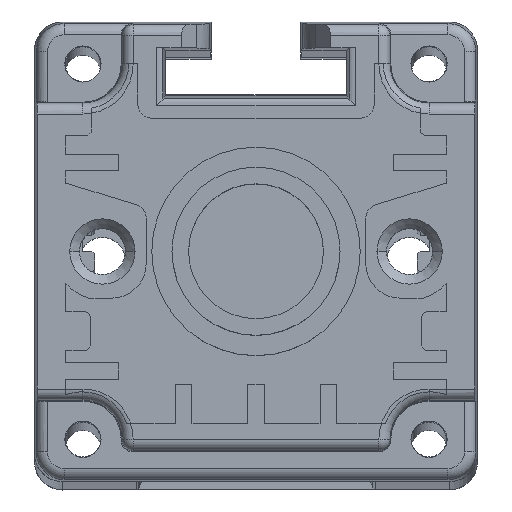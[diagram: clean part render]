
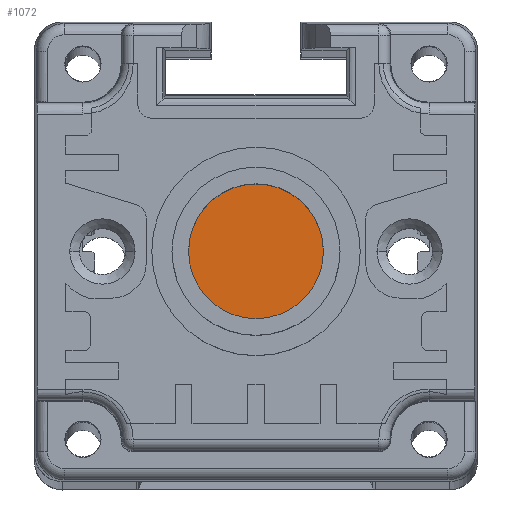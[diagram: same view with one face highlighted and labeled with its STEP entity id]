
A CAD part, top view. The second image highlights one B-rep face of the part: STEP entity #1072.
In plain terms, the highlighted planar face has unit normal (0, 0, 1).
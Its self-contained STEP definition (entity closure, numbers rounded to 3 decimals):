
#1072=ADVANCED_FACE('',(#2036),#1541,.T.);
#1541=PLANE('',#13339);
#2036=FACE_OUTER_BOUND('',#2674,.T.);
#2674=EDGE_LOOP('',(#7400,#7401));
#7400=ORIENTED_EDGE('',*,*,#11438,.T.);
#7401=ORIENTED_EDGE('',*,*,#11436,.T.);
#9849=VERTEX_POINT('',#19914);
#9850=VERTEX_POINT('',#19916);
#11436=EDGE_CURVE('',#9850,#9849,#12515,.T.);
#11438=EDGE_CURVE('',#9849,#9850,#12516,.T.);
#12515=CIRCLE('',#13335,4.85);
#12516=CIRCLE('',#13337,4.85);
#13335=AXIS2_PLACEMENT_3D('',#19915,#15871,#15872);
#13337=AXIS2_PLACEMENT_3D('',#19919,#15876,#15877);
#13339=AXIS2_PLACEMENT_3D('',#19921,#15880,#15881);
#15871=DIRECTION('',(0.,0.,1.));
#15872=DIRECTION('',(1.,0.,0.));
#15876=DIRECTION('',(0.,0.,1.));
#15877=DIRECTION('',(-1.,0.,0.));
#15880=DIRECTION('',(0.,0.,1.));
#15881=DIRECTION('',(-1.,0.,0.));
#19914=CARTESIAN_POINT('',(20.025,26.865,16.));
#19915=CARTESIAN_POINT('',(24.875,26.865,16.));
#19916=CARTESIAN_POINT('',(29.725,26.865,16.));
#19919=CARTESIAN_POINT('',(24.875,26.865,16.));
#19921=CARTESIAN_POINT('',(0.,0.,16.));
